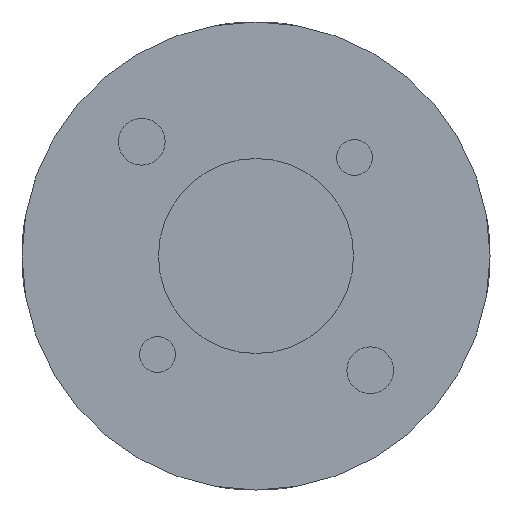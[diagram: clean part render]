
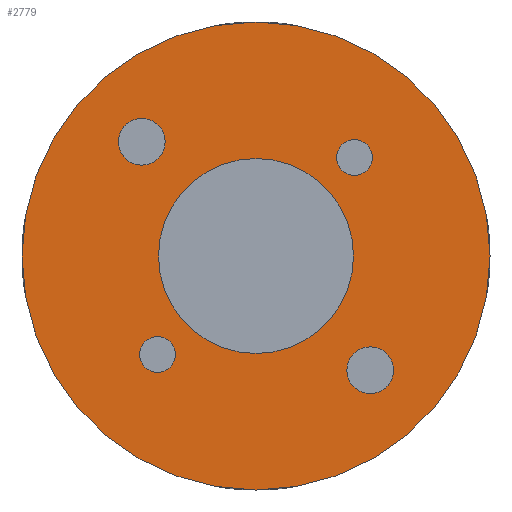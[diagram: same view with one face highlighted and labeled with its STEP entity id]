
A CAD part, front view. The second image highlights one B-rep face of the part: STEP entity #2779.
In plain terms, the highlighted planar face has unit normal (0, -1, 0).
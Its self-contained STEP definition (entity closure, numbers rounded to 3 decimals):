
#37 = DIRECTION ( 'NONE',  ( 0., -1., 0. ) ) ;
#62 = CARTESIAN_POINT ( 'NONE',  ( -10.253, 0., 10.253 ) ) ;
#93 = CARTESIAN_POINT ( 'NONE',  ( 0., 0., 21. ) ) ;
#153 = CARTESIAN_POINT ( 'NONE',  ( 10.253, 0., -10.253 ) ) ;
#302 = CARTESIAN_POINT ( 'NONE',  ( 10.253, 0., -8.153 ) ) ;
#353 = DIRECTION ( 'NONE',  ( 0., 0., -1. ) ) ;
#368 = AXIS2_PLACEMENT_3D ( 'NONE', #3858, #1507, #3393 ) ;
#392 = EDGE_CURVE ( 'NONE', #1395, #5356, #3491, .T. ) ;
#426 = EDGE_CURVE ( 'NONE', #3217, #4637, #4768, .T. ) ;
#573 = CIRCLE ( 'NONE', #945, 1.6 ) ;
#575 = ORIENTED_EDGE ( 'NONE', *, *, #896, .F. ) ;
#600 = DIRECTION ( 'NONE',  ( 0., 0., -1. ) ) ;
#626 = FACE_BOUND ( 'NONE', #2241, .T. ) ;
#698 = CARTESIAN_POINT ( 'NONE',  ( -8.839, 0., -10.439 ) ) ;
#870 = CARTESIAN_POINT ( 'NONE',  ( 8.839, 0., 7.239 ) ) ;
#896 = EDGE_CURVE ( 'NONE', #4637, #3217, #4197, .T. ) ;
#914 = DIRECTION ( 'NONE',  ( 0., 0., -1. ) ) ;
#924 = ORIENTED_EDGE ( 'NONE', *, *, #3134, .F. ) ;
#932 = VERTEX_POINT ( 'NONE', #698 ) ;
#945 = AXIS2_PLACEMENT_3D ( 'NONE', #4310, #5594, #3259 ) ;
#974 = DIRECTION ( 'NONE',  ( 0., 0., -1. ) ) ;
#991 = DIRECTION ( 'NONE',  ( 0., -1., 0. ) ) ;
#1008 = DIRECTION ( 'NONE',  ( 0., 0., -1. ) ) ;
#1073 = EDGE_LOOP ( 'NONE', ( #5092, #2891 ) ) ;
#1099 = ORIENTED_EDGE ( 'NONE', *, *, #1222, .T. ) ;
#1108 = CARTESIAN_POINT ( 'NONE',  ( 0., 0., 8.75 ) ) ;
#1161 = EDGE_CURVE ( 'NONE', #2482, #3267, #3687, .T. ) ;
#1222 = EDGE_CURVE ( 'NONE', #5356, #1395, #4187, .T. ) ;
#1243 = AXIS2_PLACEMENT_3D ( 'NONE', #153, #3408, #974 ) ;
#1344 = EDGE_CURVE ( 'NONE', #3002, #2511, #1611, .T. ) ;
#1395 = VERTEX_POINT ( 'NONE', #93 ) ;
#1441 = AXIS2_PLACEMENT_3D ( 'NONE', #5510, #5657, #1008 ) ;
#1442 = EDGE_LOOP ( 'NONE', ( #5933, #3893 ) ) ;
#1482 = CARTESIAN_POINT ( 'NONE',  ( 0., 0., 0. ) ) ;
#1507 = DIRECTION ( 'NONE',  ( 0., -1., 0. ) ) ;
#1519 = ORIENTED_EDGE ( 'NONE', *, *, #5487, .F. ) ;
#1542 = DIRECTION ( 'NONE',  ( 0., -1., 0. ) ) ;
#1611 = CIRCLE ( 'NONE', #5261, 1.6 ) ;
#1696 = CARTESIAN_POINT ( 'NONE',  ( 0., 0., 0. ) ) ;
#1762 = CARTESIAN_POINT ( 'NONE',  ( 10.253, 0., -12.353 ) ) ;
#1799 = CARTESIAN_POINT ( 'NONE',  ( 8.839, 0., 8.839 ) ) ;
#1993 = CARTESIAN_POINT ( 'NONE',  ( 0., 0., -21. ) ) ;
#2025 = CARTESIAN_POINT ( 'NONE',  ( 8.839, 0., 10.439 ) ) ;
#2109 = VERTEX_POINT ( 'NONE', #3961 ) ;
#2241 = EDGE_LOOP ( 'NONE', ( #5031, #1519 ) ) ;
#2245 = DIRECTION ( 'NONE',  ( 0., -1., 0. ) ) ;
#2274 = CARTESIAN_POINT ( 'NONE',  ( -8.839, 0., -7.239 ) ) ;
#2311 = AXIS2_PLACEMENT_3D ( 'NONE', #62, #2882, #3472 ) ;
#2317 = CIRCLE ( 'NONE', #1243, 2.1 ) ;
#2336 = ORIENTED_EDGE ( 'NONE', *, *, #392, .T. ) ;
#2338 = AXIS2_PLACEMENT_3D ( 'NONE', #5847, #4440, #2519 ) ;
#2482 = VERTEX_POINT ( 'NONE', #1762 ) ;
#2511 = VERTEX_POINT ( 'NONE', #870 ) ;
#2513 = VERTEX_POINT ( 'NONE', #2274 ) ;
#2519 = DIRECTION ( 'NONE',  ( 0., 0., -1. ) ) ;
#2521 = CIRCLE ( 'NONE', #5679, 8.75 ) ;
#2535 = CARTESIAN_POINT ( 'NONE',  ( -10.253, 0., 8.153 ) ) ;
#2779 = ADVANCED_FACE ( 'NONE', ( #4385, #5882, #3972, #626, #4867, #3457 ), #5420, .T. ) ;
#2882 = DIRECTION ( 'NONE',  ( 0., -1., 0. ) ) ;
#2891 = ORIENTED_EDGE ( 'NONE', *, *, #1344, .F. ) ;
#2937 = EDGE_CURVE ( 'NONE', #2513, #932, #5586, .T. ) ;
#2997 = AXIS2_PLACEMENT_3D ( 'NONE', #1482, #1542, #4728 ) ;
#3002 = VERTEX_POINT ( 'NONE', #2025 ) ;
#3127 = DIRECTION ( 'NONE',  ( 0., -1., 0. ) ) ;
#3134 = EDGE_CURVE ( 'NONE', #932, #2513, #573, .T. ) ;
#3172 = ORIENTED_EDGE ( 'NONE', *, *, #2937, .F. ) ;
#3217 = VERTEX_POINT ( 'NONE', #5033 ) ;
#3259 = DIRECTION ( 'NONE',  ( 0., 0., -1. ) ) ;
#3267 = VERTEX_POINT ( 'NONE', #302 ) ;
#3291 = AXIS2_PLACEMENT_3D ( 'NONE', #4692, #991, #3340 ) ;
#3319 = CIRCLE ( 'NONE', #1441, 1.6 ) ;
#3340 = DIRECTION ( 'NONE',  ( 0., 0., -1. ) ) ;
#3393 = DIRECTION ( 'NONE',  ( 0., 0., -1. ) ) ;
#3408 = DIRECTION ( 'NONE',  ( 0., -1., 0. ) ) ;
#3457 = FACE_OUTER_BOUND ( 'NONE', #4815, .T. ) ;
#3472 = DIRECTION ( 'NONE',  ( 0., 0., -1. ) ) ;
#3491 = CIRCLE ( 'NONE', #5944, 21. ) ;
#3508 = EDGE_LOOP ( 'NONE', ( #575, #4117 ) ) ;
#3687 = CIRCLE ( 'NONE', #5357, 2.1 ) ;
#3733 = VERTEX_POINT ( 'NONE', #1108 ) ;
#3824 = CARTESIAN_POINT ( 'NONE',  ( -8.839, 0., -8.839 ) ) ;
#3858 = CARTESIAN_POINT ( 'NONE',  ( 0., 0., 0. ) ) ;
#3871 = EDGE_CURVE ( 'NONE', #3733, #2109, #2521, .T. ) ;
#3893 = ORIENTED_EDGE ( 'NONE', *, *, #3871, .F. ) ;
#3961 = CARTESIAN_POINT ( 'NONE',  ( 0., 0., -8.75 ) ) ;
#3972 = FACE_BOUND ( 'NONE', #1073, .T. ) ;
#4117 = ORIENTED_EDGE ( 'NONE', *, *, #426, .F. ) ;
#4127 = DIRECTION ( 'NONE',  ( 0., -1., 0. ) ) ;
#4187 = CIRCLE ( 'NONE', #2997, 21. ) ;
#4197 = CIRCLE ( 'NONE', #2311, 2.1 ) ;
#4310 = CARTESIAN_POINT ( 'NONE',  ( -8.839, 0., -8.839 ) ) ;
#4385 = FACE_BOUND ( 'NONE', #1442, .T. ) ;
#4440 = DIRECTION ( 'NONE',  ( 0., -1., 0. ) ) ;
#4503 = AXIS2_PLACEMENT_3D ( 'NONE', #3824, #37, #914 ) ;
#4637 = VERTEX_POINT ( 'NONE', #2535 ) ;
#4692 = CARTESIAN_POINT ( 'NONE',  ( -10.253, 0., 10.253 ) ) ;
#4728 = DIRECTION ( 'NONE',  ( 0., 0., -1. ) ) ;
#4768 = CIRCLE ( 'NONE', #3291, 2.1 ) ;
#4814 = DIRECTION ( 'NONE',  ( 0., -1., 0. ) ) ;
#4815 = EDGE_LOOP ( 'NONE', ( #2336, #1099 ) ) ;
#4816 = EDGE_LOOP ( 'NONE', ( #924, #3172 ) ) ;
#4867 = FACE_BOUND ( 'NONE', #3508, .T. ) ;
#4996 = DIRECTION ( 'NONE',  ( 0., 0., -1. ) ) ;
#5031 = ORIENTED_EDGE ( 'NONE', *, *, #1161, .F. ) ;
#5033 = CARTESIAN_POINT ( 'NONE',  ( -10.253, 0., 12.353 ) ) ;
#5092 = ORIENTED_EDGE ( 'NONE', *, *, #5943, .F. ) ;
#5181 = CARTESIAN_POINT ( 'NONE',  ( 10.253, 0., -10.253 ) ) ;
#5186 = CIRCLE ( 'NONE', #368, 8.75 ) ;
#5261 = AXIS2_PLACEMENT_3D ( 'NONE', #1799, #4127, #5994 ) ;
#5356 = VERTEX_POINT ( 'NONE', #1993 ) ;
#5357 = AXIS2_PLACEMENT_3D ( 'NONE', #5181, #4814, #600 ) ;
#5420 = PLANE ( 'NONE',  #2338 ) ;
#5487 = EDGE_CURVE ( 'NONE', #3267, #2482, #2317, .T. ) ;
#5510 = CARTESIAN_POINT ( 'NONE',  ( 8.839, 0., 8.839 ) ) ;
#5586 = CIRCLE ( 'NONE', #4503, 1.6 ) ;
#5594 = DIRECTION ( 'NONE',  ( 0., -1., 0. ) ) ;
#5657 = DIRECTION ( 'NONE',  ( 0., -1., 0. ) ) ;
#5679 = AXIS2_PLACEMENT_3D ( 'NONE', #5982, #2245, #353 ) ;
#5847 = CARTESIAN_POINT ( 'NONE',  ( 0., 0., 0. ) ) ;
#5859 = EDGE_CURVE ( 'NONE', #2109, #3733, #5186, .T. ) ;
#5882 = FACE_BOUND ( 'NONE', #4816, .T. ) ;
#5933 = ORIENTED_EDGE ( 'NONE', *, *, #5859, .F. ) ;
#5943 = EDGE_CURVE ( 'NONE', #2511, #3002, #3319, .T. ) ;
#5944 = AXIS2_PLACEMENT_3D ( 'NONE', #1696, #3127, #4996 ) ;
#5982 = CARTESIAN_POINT ( 'NONE',  ( 0., 0., 0. ) ) ;
#5994 = DIRECTION ( 'NONE',  ( 0., 0., -1. ) ) ;
